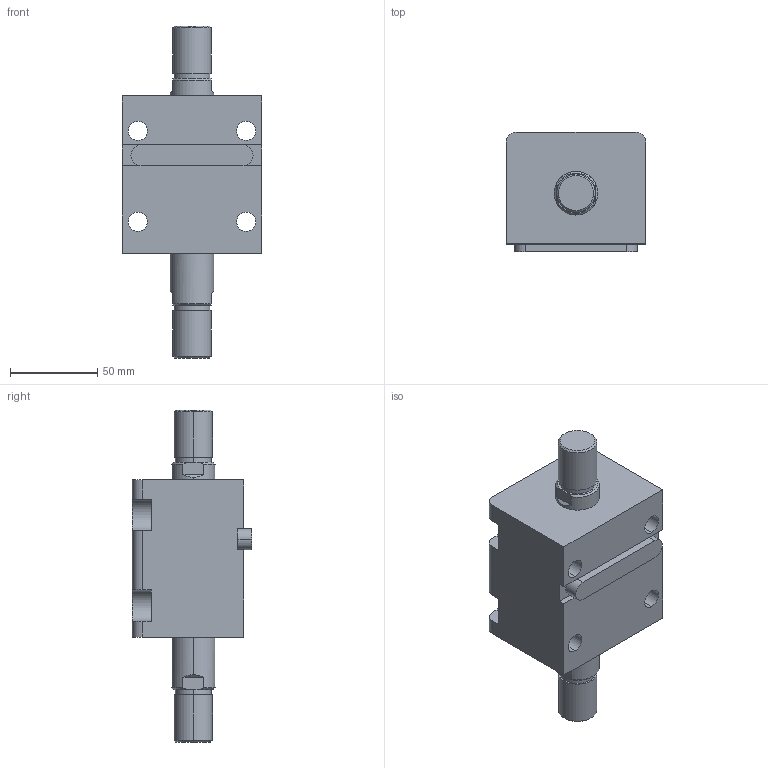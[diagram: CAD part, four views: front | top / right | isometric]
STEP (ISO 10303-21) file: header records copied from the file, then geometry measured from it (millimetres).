
FILE_DESCRIPTION (( 'STEP AP203' ), '1' );
FILE_NAME ('HTB-LW40-20W.STEP', '2019-10-09T07:54:10', ( '微软用户' ), ( '微软中国' ), 'SwSTEP 2.0', 'SolidWorks 2012', '' );
FILE_SCHEMA (( 'CONFIG_CONTROL_DESIGN' ));
Length unit declared in the file: millimetre
Products named in the file (4): HTB-LW40-20W活塞杆; HTB-LW40-20W; HTB-LA40-瑩; HTB-LW40-20掛极
Assembly tree (3 placements, depth 2):
  HTB-LW40-20W
    HTB-LW40-20掛极
    HTB-LW40-20W活塞杆
    HTB-LA40-瑩
Bounding box: 80 x 68.5 x 190 mm (x, y, z)
Volume: 454326.1 mm3; surface area: 74562.4 mm2
Topology: 3 solids, 3 shells, 113 faces, 273 edges, 178 vertices
Faces by surface type: plane 48, cylinder 45, cone 12, torus 8
Entity records: 3779 total; most frequent: CARTESIAN_POINT 622, DIRECTION 617, ORIENTED_EDGE 546, EDGE_CURVE 273, AXIS2_PLACEMENT_3D 241, VERTEX_POINT 178, EDGE_LOOP 135, LINE 135
